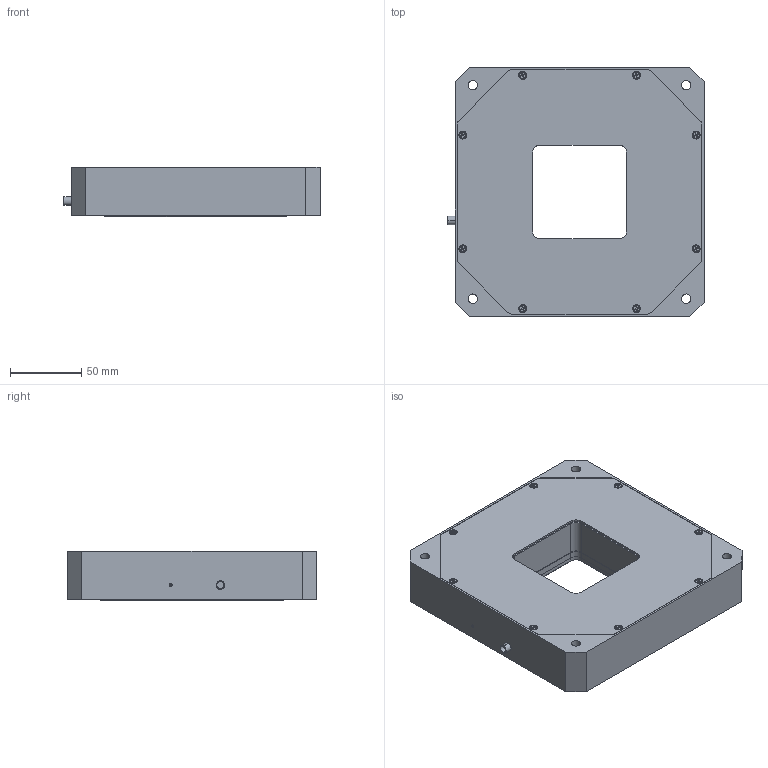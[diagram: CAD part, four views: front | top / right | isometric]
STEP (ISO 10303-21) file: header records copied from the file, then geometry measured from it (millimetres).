
FILE_DESCRIPTION (( 'STEP AP203' ), '1' );
FILE_NAME ('蚾饜极2.STEP', '2025-03-28T00:43:17', ( 'Windows User' ), ( 'P R C' ), 'SwSTEP 2.0', 'SolidWorks 2021', '' );
FILE_SCHEMA (( 'CONFIG_CONTROL_DESIGN' ));
Length unit declared in the file: millimetre
Products named in the file (1): 蚾饜极2
Bounding box: 180 x 175 x 35.1 mm (x, y, z)
Volume: 904639.2 mm3; surface area: 195246.6 mm2
Topology: 33 solids, 33 shells, 1339 faces, 3204 edges, 1965 vertices
Faces by surface type: plane 593, cylinder 464, cone 258, torus 24
Entity records: 38161 total; most frequent: DIRECTION 7002, CARTESIAN_POINT 6419, ORIENTED_EDGE 6228, EDGE_CURVE 3114, AXIS2_PLACEMENT_3D 2548, VERTEX_POINT 1965, VECTOR 1906, LINE 1906
